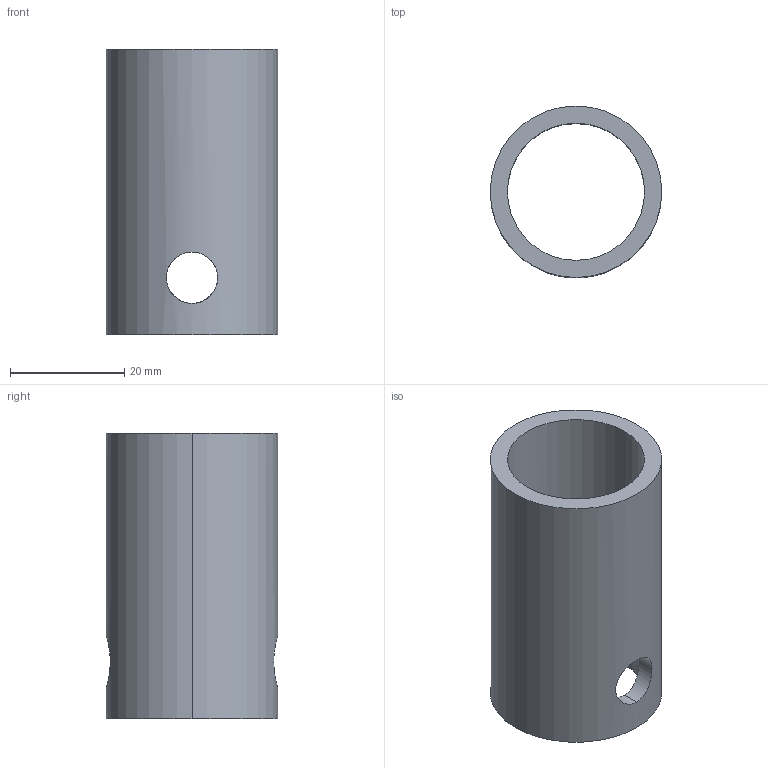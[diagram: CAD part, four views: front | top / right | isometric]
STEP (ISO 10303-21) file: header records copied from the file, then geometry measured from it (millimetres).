
FILE_DESCRIPTION (( 'STEP AP214' ), '1' );
FILE_NAME ('SMBY30-50.STEP', '2023-01-05T09:09:57', ( 'Windows User' ), ( 'P R C' ), 'SwSTEP 2.0', 'SolidWorks 2018', '' );
FILE_SCHEMA (( 'AUTOMOTIVE_DESIGN' ));
Length unit declared in the file: millimetre
Products named in the file (1): SMBY30-50
Bounding box: 30 x 30 x 50 mm (x, y, z)
Volume: 12336.1 mm3; surface area: 8907.7 mm2
Topology: 1 solids, 1 shells, 10 faces, 24 edges, 16 vertices
Faces by surface type: cylinder 8, plane 2
Entity records: 620 total; most frequent: CARTESIAN_POINT 323, ORIENTED_EDGE 48, DIRECTION 46, EDGE_CURVE 24, AXIS2_PLACEMENT_3D 19, EDGE_LOOP 16, VERTEX_POINT 16, FACE_OUTER_BOUND 10
